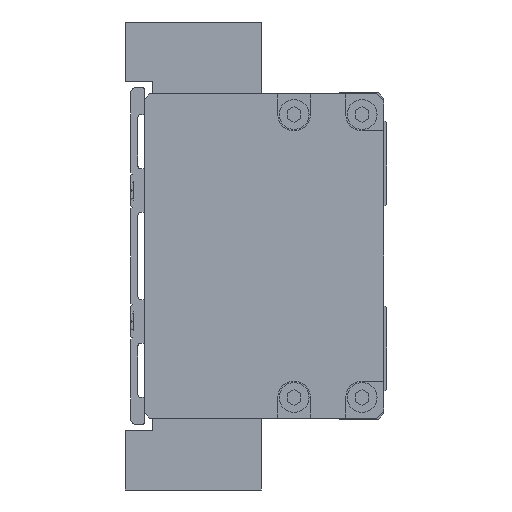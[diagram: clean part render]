
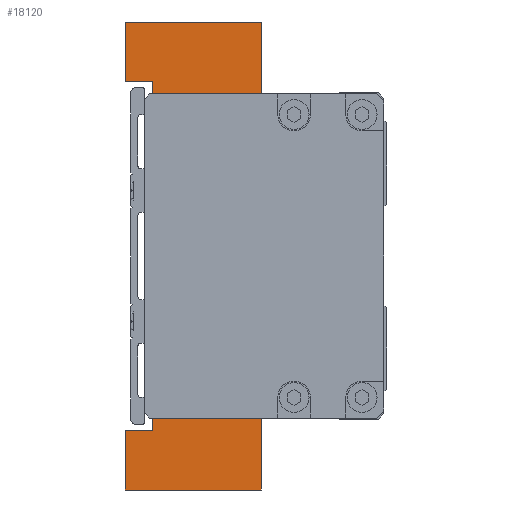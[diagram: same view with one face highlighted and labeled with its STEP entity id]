
A CAD part, left-side view. The second image highlights one B-rep face of the part: STEP entity #18120.
In plain terms, the highlighted planar face has unit normal (-1, 0, 0).
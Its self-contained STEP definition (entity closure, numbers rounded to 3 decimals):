
#438 = ORIENTED_EDGE ( 'NONE', *, *, #21822, .F. ) ;
#549 = DIRECTION ( 'NONE',  ( 0., 0., -1. ) ) ;
#702 = EDGE_CURVE ( 'NONE', #9135, #12268, #2258, .T. ) ;
#809 = CARTESIAN_POINT ( 'NONE',  ( -77., 0., 28. ) ) ;
#889 = CARTESIAN_POINT ( 'NONE',  ( -77., 9., -21. ) ) ;
#1052 = CARTESIAN_POINT ( 'NONE',  ( -77., 10., 21. ) ) ;
#1222 = EDGE_CURVE ( 'NONE', #5267, #11372, #13197, .T. ) ;
#1486 = CARTESIAN_POINT ( 'NONE',  ( -77., 0., -28. ) ) ;
#1550 = CARTESIAN_POINT ( 'NONE',  ( -77., 9., -21. ) ) ;
#1726 = EDGE_CURVE ( 'NONE', #5267, #23274, #7952, .T. ) ;
#1745 = CARTESIAN_POINT ( 'NONE',  ( -77., 25., 43. ) ) ;
#1840 = DIRECTION ( 'NONE',  ( 0., 0., -1. ) ) ;
#1866 = LINE ( 'NONE', #17643, #13795 ) ;
#2188 = CARTESIAN_POINT ( 'NONE',  ( -77., 9., 21. ) ) ;
#2258 = LINE ( 'NONE', #16543, #9588 ) ;
#2395 = ORIENTED_EDGE ( 'NONE', *, *, #21902, .F. ) ;
#2509 = CARTESIAN_POINT ( 'NONE',  ( -77., 5., -21. ) ) ;
#2582 = CARTESIAN_POINT ( 'NONE',  ( -77., 10., 21. ) ) ;
#2664 = CARTESIAN_POINT ( 'NONE',  ( -77., 20., 32. ) ) ;
#2851 = VERTEX_POINT ( 'NONE', #19132 ) ;
#3254 = VERTEX_POINT ( 'NONE', #18502 ) ;
#3281 = DIRECTION ( 'NONE',  ( 0., -1., 0. ) ) ;
#3418 = DIRECTION ( 'NONE',  ( 0., 1., 0. ) ) ;
#3510 = VERTEX_POINT ( 'NONE', #23175 ) ;
#3592 = CARTESIAN_POINT ( 'NONE',  ( -77., 10., 0. ) ) ;
#3776 = CARTESIAN_POINT ( 'NONE',  ( -77., 25., 32. ) ) ;
#4054 = EDGE_CURVE ( 'NONE', #20302, #25319, #16664, .T. ) ;
#4301 = ORIENTED_EDGE ( 'NONE', *, *, #4054, .F. ) ;
#4880 = EDGE_CURVE ( 'NONE', #16259, #23884, #20899, .T. ) ;
#5267 = VERTEX_POINT ( 'NONE', #2582 ) ;
#5750 = DIRECTION ( 'NONE',  ( 1., 0., 0. ) ) ;
#6057 = VERTEX_POINT ( 'NONE', #12688 ) ;
#6098 = VECTOR ( 'NONE', #549, 1000. ) ;
#6314 = VERTEX_POINT ( 'NONE', #7619 ) ;
#6432 = VECTOR ( 'NONE', #12641, 1000. ) ;
#6860 = VECTOR ( 'NONE', #1840, 1000. ) ;
#7061 = VERTEX_POINT ( 'NONE', #16517 ) ;
#7066 = VERTEX_POINT ( 'NONE', #809 ) ;
#7353 = EDGE_CURVE ( 'NONE', #13552, #23274, #19343, .T. ) ;
#7365 = FACE_OUTER_BOUND ( 'NONE', #21905, .T. ) ;
#7619 = CARTESIAN_POINT ( 'NONE',  ( -77., 0., 43. ) ) ;
#7726 = DIRECTION ( 'NONE',  ( 0., 1., 0. ) ) ;
#7912 = CARTESIAN_POINT ( 'NONE',  ( -77., 0., -28. ) ) ;
#7952 = LINE ( 'NONE', #24362, #18932 ) ;
#7987 = LINE ( 'NONE', #17210, #11051 ) ;
#8003 = VECTOR ( 'NONE', #3281, 1000. ) ;
#8761 = VERTEX_POINT ( 'NONE', #1486 ) ;
#8840 = VECTOR ( 'NONE', #24637, 1000. ) ;
#8851 = DIRECTION ( 'NONE',  ( 0., 0., -1. ) ) ;
#9135 = VERTEX_POINT ( 'NONE', #16235 ) ;
#9286 = ORIENTED_EDGE ( 'NONE', *, *, #1726, .F. ) ;
#9413 = DIRECTION ( 'NONE',  ( 0., 0., -1. ) ) ;
#9588 = VECTOR ( 'NONE', #14674, 1000. ) ;
#9779 = LINE ( 'NONE', #22409, #6432 ) ;
#9843 = ORIENTED_EDGE ( 'NONE', *, *, #22119, .F. ) ;
#10023 = VECTOR ( 'NONE', #15404, 1000. ) ;
#10045 = ORIENTED_EDGE ( 'NONE', *, *, #10553, .F. ) ;
#10208 = EDGE_CURVE ( 'NONE', #8761, #3254, #15554, .T. ) ;
#10259 = ORIENTED_EDGE ( 'NONE', *, *, #10884, .F. ) ;
#10553 = EDGE_CURVE ( 'NONE', #23884, #8761, #10969, .T. ) ;
#10607 = CARTESIAN_POINT ( 'NONE',  ( -77., 10., -21. ) ) ;
#10853 = CARTESIAN_POINT ( 'NONE',  ( -77., 5., 28. ) ) ;
#10884 = EDGE_CURVE ( 'NONE', #3254, #9135, #17035, .T. ) ;
#10969 = LINE ( 'NONE', #19628, #8840 ) ;
#11051 = VECTOR ( 'NONE', #11268, 1000. ) ;
#11061 = CARTESIAN_POINT ( 'NONE',  ( -77., 20., 32. ) ) ;
#11268 = DIRECTION ( 'NONE',  ( 0., -1., 0. ) ) ;
#11372 = VERTEX_POINT ( 'NONE', #17890 ) ;
#11857 = EDGE_CURVE ( 'NONE', #25319, #2851, #21583, .T. ) ;
#11880 = VECTOR ( 'NONE', #23813, 1000. ) ;
#12268 = VERTEX_POINT ( 'NONE', #12766 ) ;
#12293 = CARTESIAN_POINT ( 'NONE',  ( -77., 0., 43. ) ) ;
#12641 = DIRECTION ( 'NONE',  ( 0., 1., 0. ) ) ;
#12688 = CARTESIAN_POINT ( 'NONE',  ( -77., 5., 21. ) ) ;
#12766 = CARTESIAN_POINT ( 'NONE',  ( -77., 25., -32. ) ) ;
#13197 = LINE ( 'NONE', #1052, #8003 ) ;
#13199 = AXIS2_PLACEMENT_3D ( 'NONE', #3592, #5750, #9413 ) ;
#13552 = VERTEX_POINT ( 'NONE', #889 ) ;
#13605 = PLANE ( 'NONE',  #13199 ) ;
#13707 = EDGE_CURVE ( 'NONE', #2851, #6314, #20997, .T. ) ;
#13795 = VECTOR ( 'NONE', #14003, 1000. ) ;
#14003 = DIRECTION ( 'NONE',  ( 0., 0., 1. ) ) ;
#14395 = VECTOR ( 'NONE', #17815, 1000. ) ;
#14620 = ORIENTED_EDGE ( 'NONE', *, *, #13707, .F. ) ;
#14674 = DIRECTION ( 'NONE',  ( 0., 0., 1. ) ) ;
#15180 = VECTOR ( 'NONE', #23069, 1000. ) ;
#15404 = DIRECTION ( 'NONE',  ( 0., -1., 0. ) ) ;
#15524 = ORIENTED_EDGE ( 'NONE', *, *, #17397, .T. ) ;
#15554 = LINE ( 'NONE', #7912, #23180 ) ;
#16057 = CARTESIAN_POINT ( 'NONE',  ( -77., 5., -28. ) ) ;
#16235 = CARTESIAN_POINT ( 'NONE',  ( -77., 25., -43. ) ) ;
#16259 = VERTEX_POINT ( 'NONE', #2509 ) ;
#16517 = CARTESIAN_POINT ( 'NONE',  ( -77., 20., -32. ) ) ;
#16543 = CARTESIAN_POINT ( 'NONE',  ( -77., 25., -43. ) ) ;
#16626 = ORIENTED_EDGE ( 'NONE', *, *, #18547, .F. ) ;
#16664 = LINE ( 'NONE', #2664, #18807 ) ;
#17035 = LINE ( 'NONE', #22008, #11880 ) ;
#17210 = CARTESIAN_POINT ( 'NONE',  ( -77., 25., -32. ) ) ;
#17397 = EDGE_CURVE ( 'NONE', #11372, #6057, #17721, .T. ) ;
#17450 = VECTOR ( 'NONE', #20642, 1000. ) ;
#17643 = CARTESIAN_POINT ( 'NONE',  ( -77., 20., -32. ) ) ;
#17710 = DIRECTION ( 'NONE',  ( 0., 0., -1. ) ) ;
#17721 = LINE ( 'NONE', #2188, #14395 ) ;
#17815 = DIRECTION ( 'NONE',  ( 0., -1., 0. ) ) ;
#17890 = CARTESIAN_POINT ( 'NONE',  ( -77., 9., 21. ) ) ;
#18120 = ADVANCED_FACE ( 'NONE', ( #7365 ), #13605, .F. ) ;
#18318 = ORIENTED_EDGE ( 'NONE', *, *, #18448, .F. ) ;
#18448 = EDGE_CURVE ( 'NONE', #7066, #3510, #9779, .T. ) ;
#18502 = CARTESIAN_POINT ( 'NONE',  ( -77., 0., -43. ) ) ;
#18547 = EDGE_CURVE ( 'NONE', #13552, #16259, #20762, .T. ) ;
#18660 = ORIENTED_EDGE ( 'NONE', *, *, #1222, .T. ) ;
#18750 = ORIENTED_EDGE ( 'NONE', *, *, #10208, .F. ) ;
#18807 = VECTOR ( 'NONE', #3418, 1000. ) ;
#18932 = VECTOR ( 'NONE', #8851, 1000. ) ;
#19132 = CARTESIAN_POINT ( 'NONE',  ( -77., 25., 43. ) ) ;
#19343 = LINE ( 'NONE', #19416, #23303 ) ;
#19416 = CARTESIAN_POINT ( 'NONE',  ( -77., 9., -21. ) ) ;
#19458 = EDGE_CURVE ( 'NONE', #6314, #7066, #22249, .T. ) ;
#19628 = CARTESIAN_POINT ( 'NONE',  ( -77., 5., -28. ) ) ;
#19729 = ORIENTED_EDGE ( 'NONE', *, *, #7353, .T. ) ;
#19853 = ORIENTED_EDGE ( 'NONE', *, *, #19458, .F. ) ;
#20302 = VERTEX_POINT ( 'NONE', #11061 ) ;
#20513 = ORIENTED_EDGE ( 'NONE', *, *, #4880, .F. ) ;
#20642 = DIRECTION ( 'NONE',  ( 0., 0., -1. ) ) ;
#20712 = ORIENTED_EDGE ( 'NONE', *, *, #11857, .F. ) ;
#20762 = LINE ( 'NONE', #1550, #23834 ) ;
#20899 = LINE ( 'NONE', #23171, #6860 ) ;
#20997 = LINE ( 'NONE', #1745, #10023 ) ;
#21583 = LINE ( 'NONE', #3776, #15180 ) ;
#21822 = EDGE_CURVE ( 'NONE', #3510, #6057, #22025, .T. ) ;
#21902 = EDGE_CURVE ( 'NONE', #12268, #7061, #7987, .T. ) ;
#21905 = EDGE_LOOP ( 'NONE', ( #18660, #15524, #438, #18318, #19853, #14620, #20712, #4301, #9843, #2395, #24261, #10259, #18750, #10045, #20513, #16626, #19729, #9286 ) ) ;
#22008 = CARTESIAN_POINT ( 'NONE',  ( -77., 0., -43. ) ) ;
#22025 = LINE ( 'NONE', #10853, #17450 ) ;
#22119 = EDGE_CURVE ( 'NONE', #7061, #20302, #1866, .T. ) ;
#22249 = LINE ( 'NONE', #12293, #6098 ) ;
#22409 = CARTESIAN_POINT ( 'NONE',  ( -77., 0., 28. ) ) ;
#22887 = DIRECTION ( 'NONE',  ( 0., -1., 0. ) ) ;
#23069 = DIRECTION ( 'NONE',  ( 0., 0., 1. ) ) ;
#23171 = CARTESIAN_POINT ( 'NONE',  ( -77., 5., -21. ) ) ;
#23175 = CARTESIAN_POINT ( 'NONE',  ( -77., 5., 28. ) ) ;
#23180 = VECTOR ( 'NONE', #17710, 1000. ) ;
#23274 = VERTEX_POINT ( 'NONE', #10607 ) ;
#23303 = VECTOR ( 'NONE', #7726, 1000. ) ;
#23813 = DIRECTION ( 'NONE',  ( 0., 1., 0. ) ) ;
#23834 = VECTOR ( 'NONE', #22887, 1000. ) ;
#23884 = VERTEX_POINT ( 'NONE', #16057 ) ;
#24261 = ORIENTED_EDGE ( 'NONE', *, *, #702, .F. ) ;
#24362 = CARTESIAN_POINT ( 'NONE',  ( -77., 10., 21. ) ) ;
#24637 = DIRECTION ( 'NONE',  ( 0., -1., 0. ) ) ;
#24932 = CARTESIAN_POINT ( 'NONE',  ( -77., 25., 32. ) ) ;
#25319 = VERTEX_POINT ( 'NONE', #24932 ) ;
